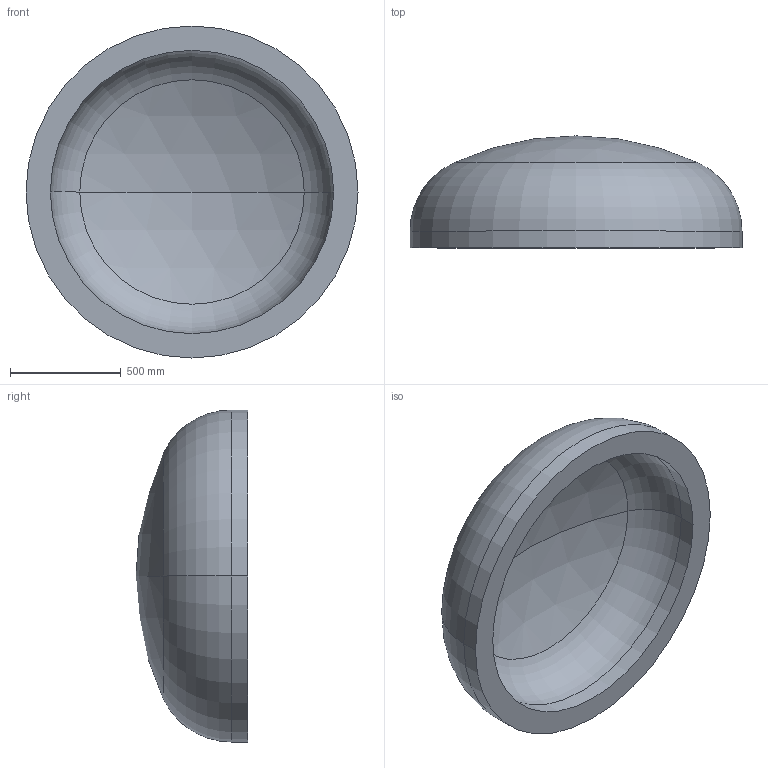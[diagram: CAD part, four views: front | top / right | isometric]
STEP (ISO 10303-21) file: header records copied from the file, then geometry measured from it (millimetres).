
FILE_DESCRIPTION (( 'STEP AP203' ), '1' );
FILE_NAME ('DIN 28013 Korbbogenform_-_Boden DIN 28013 - 1500 x 75 - I - s=110.step', '2016-07-01T10:59:48', ( '' ), ( '' ), 'SwSTEP 2.0', 'SolidWorks 2013', '' );
FILE_SCHEMA (( 'CONFIG_CONTROL_DESIGN' ));
Length unit declared in the file: millimetre
Products named in the file (1): DIN 28013 Korbbogenform_-_Boden DIN 28013 - 1500 x 75 - I - s=110
Bounding box: 1500 x 505.91 x 1500 mm (x, y, z)
Volume: 281238119.7 mm3; surface area: 5619110.9 mm2
Topology: 1 solids, 1 shells, 13 faces, 24 edges, 14 vertices
Faces by surface type: torus 4, cylinder 4, sphere 4, plane 1
Entity records: 407 total; most frequent: DIRECTION 72, CARTESIAN_POINT 52, ORIENTED_EDGE 48, AXIS2_PLACEMENT_3D 34, EDGE_CURVE 24, CIRCLE 20, VERTEX_POINT 14, EDGE_LOOP 14
